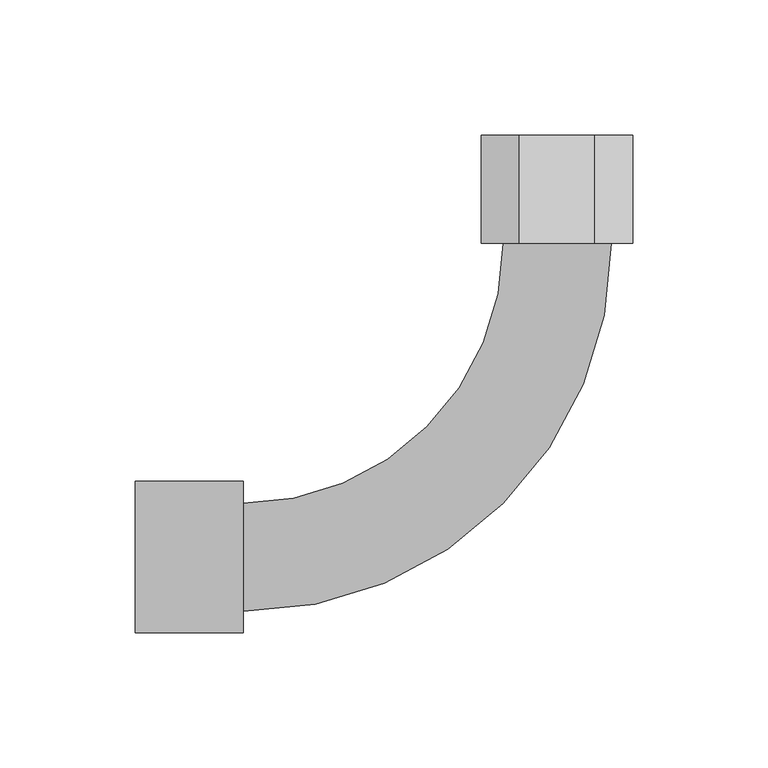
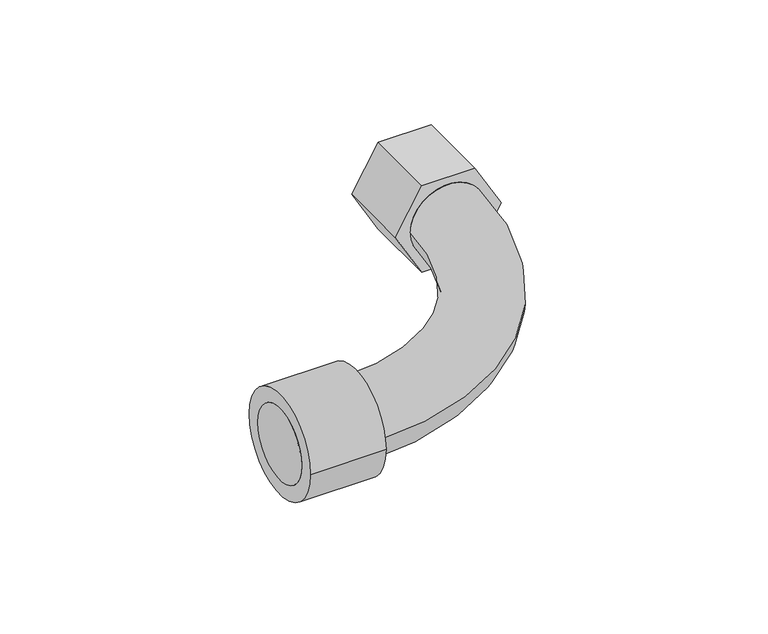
"""IFC4 building model written with IfcOpenShell, lengths in millimetres: cable carrier fitting geometry, Муфта гибкая труба-коробка CXS : Муфта гибкая труба-коробка CXS."""

from ifc_helpers import new_model, si_unit, point, frame, origin, origin_2d, place, context, project, spatial, polyline, circle_curve, ellipse_curve, trimmed, segment, composite_curve, outline, extrude, source, transform, mapped, element, save
from ifc_brep_helpers import plane_surface, cylinder_surface, revolved_surface, advanced_brep


def cable_carrier_fitting_b2184ef0(model_context):
    return source(origin(), model_context, "Body", "SolidModel", [
        advanced_brep(
        [(-156.083, -19.9898, 0.0), (-156.083, 19.9898, 0.0), (-116.1034, -19.9898, 0.0), (-116.1034, 19.9898, 0.0), (-19.9898, 116.1034, 0.0), (19.9898, 116.1034, 0.0), (19.9898, 156.083, 0.0), (-19.9898, 156.083, 0.0)],
        [
            (0, 1, circle_curve(frame((-156.083, 0.0, 0.0), z_axis=(-1.0, 0.0, 0.0), x_axis=(0.0, 1.0, 0.0)), 19.9898)),
            (1, 0, circle_curve(frame((-156.083, 0.0, 0.0), z_axis=(-1.0, 0.0, 0.0), x_axis=(0.0, 1.0, 0.0)), 19.9898)),
            (0, 2),
            (2, 3, circle_curve(frame((-116.1034, 0.0, 0.0), z_axis=(-1.0, 0.0, 0.0), x_axis=(0.0, 1.0, 0.0)), 19.9898)),
            (3, 1),
            (3, 2, circle_curve(frame((-116.1034, 0.0, 0.0), z_axis=(-1.0, 0.0, 0.0), x_axis=(0.0, 1.0, 0.0)), 19.9898)),
            (4, 3, circle_curve(frame((-116.1034, 116.1034, 0.0), z_axis=(0.0, 0.0, -1.0), x_axis=(0.0, -1.0, 0.0)), 96.1136)),
            (2, 5, circle_curve(frame((-116.1034, 116.1034, 0.0), z_axis=(0.0, 0.0, 1.0), x_axis=(0.0, -1.0, 0.0)), 136.0932)),
            (5, 4, circle_curve(frame((0.0, 116.1034, 0.0), z_axis=(0.0, -1.0, 0.0), x_axis=(-1.0, 0.0, 0.0)), 19.9898)),
            (4, 5, circle_curve(frame((0.0, 116.1034, 0.0), z_axis=(0.0, -1.0, 0.0), x_axis=(-1.0, 0.0, 0.0)), 19.9898)),
            (6, 7, circle_curve(frame((0.0, 156.083, 0.0), z_axis=(0.0, 1.0, 0.0), x_axis=(-1.0, 0.0, 0.0)), 19.9898)),
            (7, 6, circle_curve(frame((0.0, 156.083, 0.0), z_axis=(0.0, 1.0, 0.0), x_axis=(-1.0, 0.0, 0.0)), 19.9898)),
            (5, 6),
            (7, 4),
        ],
        [
            plane_surface(frame((-156.083, 0.0, 0.0), z_axis=(-1.0, 0.0, 0.0), x_axis=(0.0, 0.0, 1.0))),
            cylinder_surface(frame((-156.083, 0.0, 0.0), z_axis=(-1.0, 0.0, 0.0), x_axis=(0.0, 1.0, 0.0)), 19.9898),
            revolved_surface(trimmed(ellipse_curve(frame((-116.1034, 0.0, 0.0), z_axis=(-1.0, 0.0, 0.0), x_axis=(0.0, 1.0, 0.0)), 19.9898, 19.9898), [point((-116.1034, -19.9898, 0.0))], [point((-116.1034, 19.9898, 0.0))], True, "CARTESIAN"), (-116.1034, 116.1034, 0.0), (0.0, 0.0, 1.0)),
            revolved_surface(trimmed(ellipse_curve(frame((-116.1034, 0.0, 0.0), z_axis=(-1.0, 0.0, 0.0), x_axis=(0.0, 1.0, 0.0)), 19.9898, 19.9898), [point((-116.1034, 19.9898, 0.0))], [point((-116.1034, -19.9898, 0.0))], True, "CARTESIAN"), (-116.1034, 116.1034, 0.0), (0.0, 0.0, 1.0)),
            plane_surface(frame((0.0, 156.083, 0.0), z_axis=(0.0, 1.0, 0.0), x_axis=(0.0, 0.0, 1.0))),
            cylinder_surface(frame((0.0, 116.1034, 0.0), z_axis=(0.0, -1.0, 0.0), x_axis=(-1.0, 0.0, 0.0)), 19.9898),
        ],
        [
            (0, [[1, 2]]),
            (1, [[-1, 3, 4, 5]]),
            (1, [[-2, -5, 6, -3]]),
            (2, [[7, -4, 8, 9]]),
            (3, [[-8, -6, -7, 10]]),
            (4, [[11, 12]]),
            (5, [[-9, 13, -12, 14]]),
            (5, [[-10, -14, -11, -13]]),
        ],
    ),
        extrude(outline(composite_curve([segment(trimmed(circle_curve(origin_2d(), 28.0), [point((-28.0, 0.0))], [point((28.0, 0.0))], False, "CARTESIAN"), True, "CONTINUOUS"), segment(trimmed(circle_curve(origin_2d(), 28.0), [point((28.0, 0.0))], [point((-28.0, 0.0))], False, "CARTESIAN"), True, "CONTINUOUS")], self_intersect=False)), frame((-156.083, 0.0, 0.0), z_axis=(1.0, 0.0, 0.0), x_axis=(0.0, 1.0, 0.0)), (0.0, 0.0, 1.0), 39.9796),
        extrude(outline(polyline([(-24.2487113, 14.0), (0.0, 28.0), (24.2487113, 14.0), (24.2487113, -14.0), (0.0, -28.0), (-24.2487113, -14.0), (-24.2487113, 14.0)])), frame((0.0, 116.1034, 0.0), z_axis=(0.0, 1.0, 0.0), x_axis=(0.0, 0.0, 1.0)), (0.0, 0.0, 1.0), 39.9796),
    ])


if __name__ == "__main__":
    model = new_model("IFC4")
    model_context = context("Model", 3, world=origin())
    ifc_project = project(units=[si_unit("LENGTHUNIT", "METRE", prefix="MILLI")], contexts=[model_context])
    site = spatial("IfcSite", under=ifc_project)
    building = spatial("IfcBuilding", under=site)
    placement = place(None, origin())
    cable_carrier_fitting_shape = cable_carrier_fitting_b2184ef0(model_context)
    element("IfcCableCarrierFitting", 1, ObjectType="Муфта гибкая труба-коробка CXS : Муфта гибкая труба-коробка CXS", at=placement, inside=building, context=model_context, shape_type="MappedRepresentation", body=[
        mapped(cable_carrier_fitting_shape, transform((0.0, 0.0, 0.0), x_axis=(1.0, 0.0, 0.0), y_axis=(0.0, 1.0, 0.0), z_axis=(0.0, 0.0, 1.0))),
    ])
    save(model, "model.ifc")
